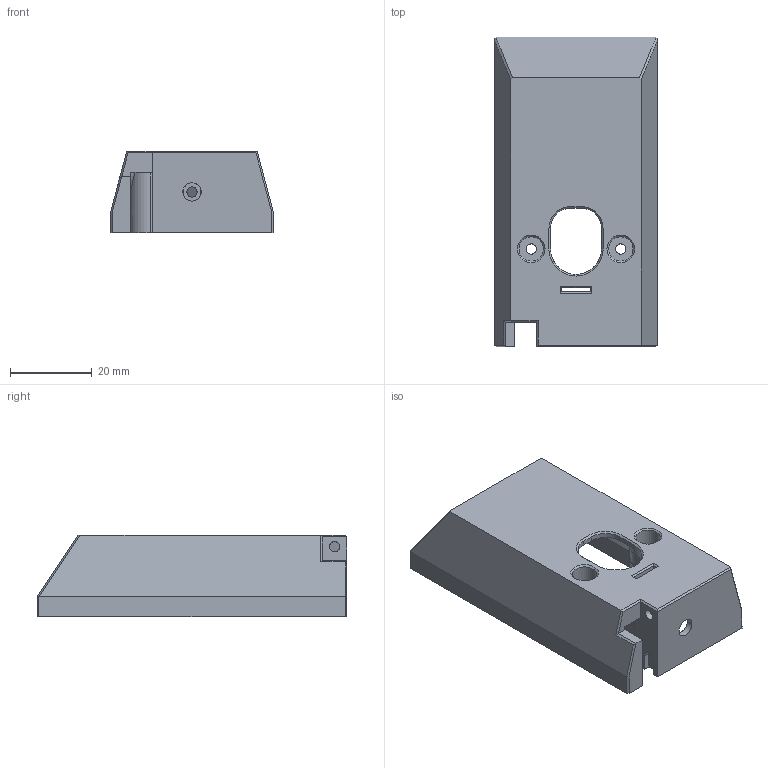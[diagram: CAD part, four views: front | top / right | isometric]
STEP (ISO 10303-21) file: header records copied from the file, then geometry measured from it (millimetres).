
FILE_DESCRIPTION(/* description */ (''),/* implementation_level */ '2;1');
FILE_NAME(/* name */ '/Volumes/TB SSD 2TB/projects/toolhead-cover/cover.step',/* time_stamp */ '2021-05-10T14:32:41+02:00',/* author */ (''),/* organization */ (''),/* preprocessor_version */ 'ST-DEVELOPER v18.1',/* originating_system */ 'Autodesk Translation Framework v10.6.0.1341',/* authorisation */ '');
FILE_SCHEMA (('AUTOMOTIVE_DESIGN { 1 0 10303 214 3 1 1 }'));
Length unit declared in the file: millimetre
Products named in the file (1): cover
Bounding box: 40 x 76 x 20 mm (x, y, z)
Volume: 13095 mm3; surface area: 15272.6 mm2
Topology: 1 solids, 1 shells, 162 faces, 459 edges, 291 vertices
Faces by surface type: plane 103, cylinder 23, cone 22, bspline 14
Full cylindrical faces by diameter (mm): 2.5 x1, 2.529 x2, 6 x2
Entity records: 6725 total; most frequent: CARTESIAN_POINT 2574, ORIENTED_EDGE 918, DIRECTION 787, EDGE_CURVE 459, LINE 293, VECTOR 293, VERTEX_POINT 291, AXIS2_PLACEMENT_3D 247
